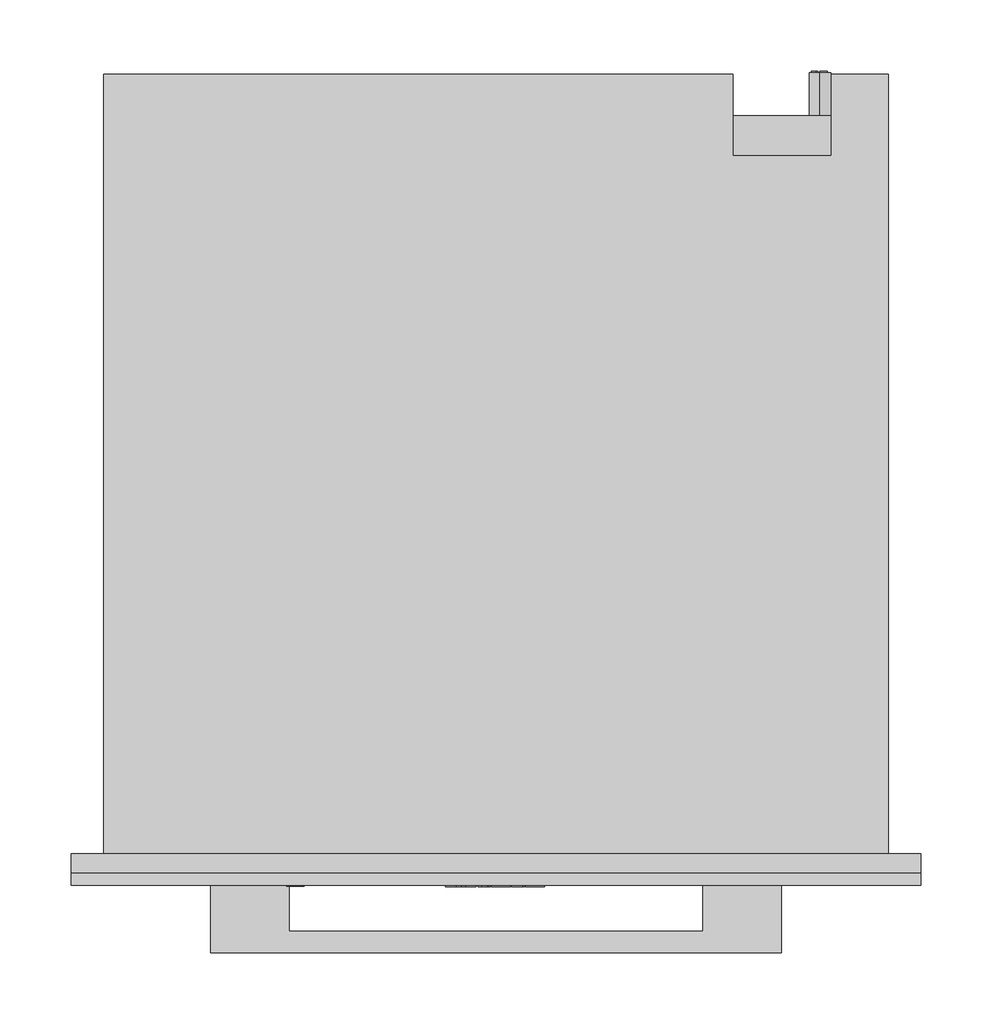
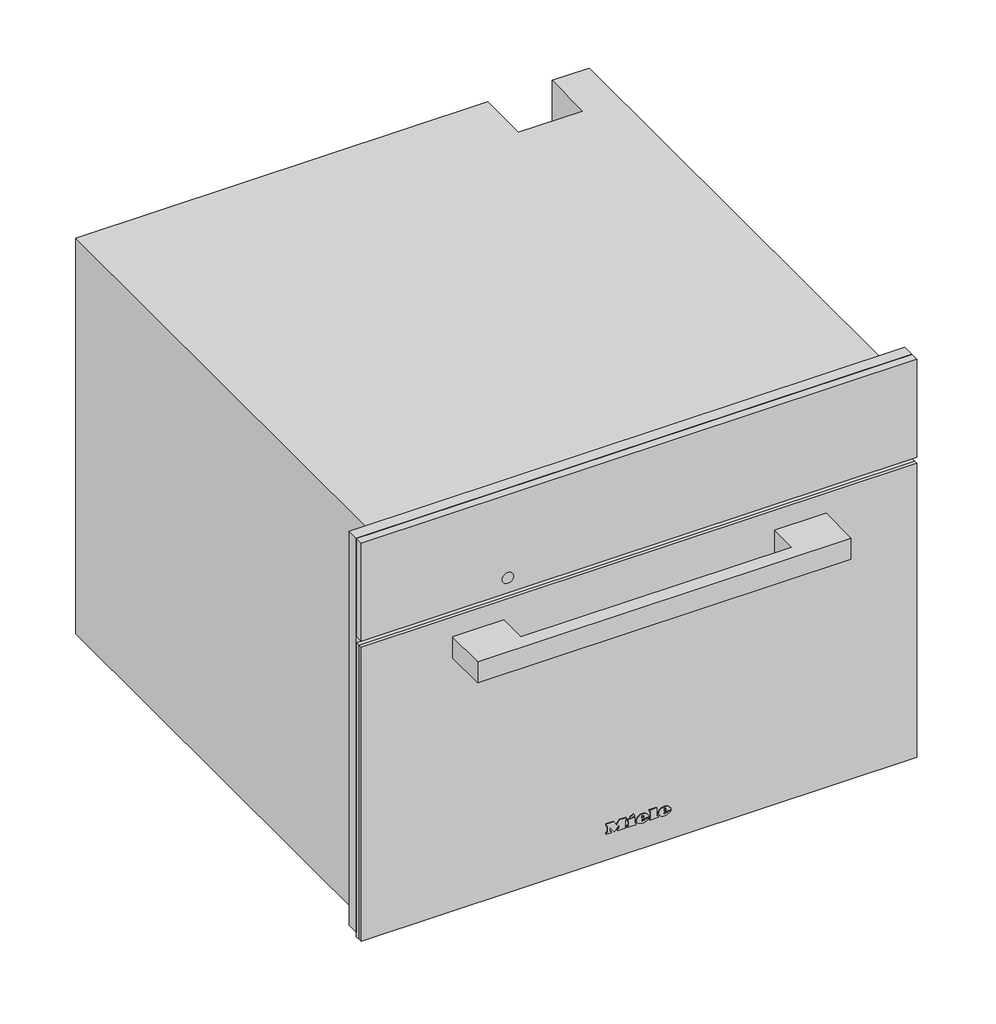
# Not in any storey: 1 proxy.
"""IFC4 building model written with IfcOpenShell, lengths in millimetres."""

import ifcopenshell
import ifcopenshell.guid

model = None  # the IFC model being written
_history = None  # IfcOwnerHistory: only IFC2X3 demands one
_inside = {}  # id of a spatial element -> (the spatial element, [elements in it])
_under = {}  # id of a project, library or spatial element -> (it, [spatial elements below it])
_declared = {}  # id of a project -> (the project, [libraries it declares])
_typed = {}  # id of a type object -> (the type object, [elements of that type])
_made_of = {}  # id of a material, layer set ... -> (it, [elements and type objects made of it])


def new_model(schema):
    """Start an empty IFC model of exactly this schema.

    Asked for "IFC4X3", IfcOpenShell would pick the latest addendum, in which some entities
    have other attributes; the version numbers below select the first issue.
    IFC2X3 requires an IfcOwnerHistory on every rooted entity: one is made here for all.
    """
    global model, _history
    if schema == "IFC4X3":
        model = ifcopenshell.file(schema_version=(4, 3, 0, 0))
    else:
        model = ifcopenshell.file(schema=schema)
    _inside.clear()
    _under.clear()
    _declared.clear()
    _typed.clear()
    _made_of.clear()
    _history = None
    if model.schema == "IFC2X3":
        org = make("IfcOrganization", Name="unknown")
        user = make(
            "IfcPersonAndOrganization",
            ThePerson=make("IfcPerson", FamilyName="unknown"),
            TheOrganization=org,
        )
        app = make(
            "IfcApplication",
            ApplicationDeveloper=org,
            Version="unknown",
            ApplicationFullName="unknown",
            ApplicationIdentifier="unknown",
        )
        _history = make(
            "IfcOwnerHistory",
            OwningUser=user,
            OwningApplication=app,
            ChangeAction="ADDED",
            CreationDate=0,
        )
    return model


def make(cls, **values):
    """One entity of the class cls with the attributes given. An attribute that is None is left unset."""
    return model.create_entity(
        cls, **{name: value for name, value in values.items() if value is not None}
    )


def rooted(cls, **values):
    """An entity with a GlobalId (a new one), such as an element, a storey or a relation."""
    return make(cls, GlobalId=ifcopenshell.guid.new(), OwnerHistory=_history, **values)


def si_unit(unit_type, name, prefix=None):
    """IfcSIUnit, for example si_unit("LENGTHUNIT", "METRE", prefix="MILLI")."""
    return make("IfcSIUnit", UnitType=unit_type, Prefix=prefix, Name=name)


def assignment(units):
    """IfcUnitAssignment: the units of a project."""
    return None if units is None else make("IfcUnitAssignment", Units=units)


def point(xyz):
    """IfcCartesianPoint."""
    return None if xyz is None else make("IfcCartesianPoint", Coordinates=xyz)


def direction(xyz):
    """IfcDirection."""
    return None if xyz is None else make("IfcDirection", DirectionRatios=xyz)


def frame(location, z_axis=None, x_axis=None):
    """IfcAxis2Placement3D, a coordinate frame: its origin and axes. An axis left out is left unset."""
    return make(
        "IfcAxis2Placement3D",
        Location=point(location),
        Axis=direction(z_axis),
        RefDirection=direction(x_axis),
    )


def frame_2d(location, x_axis=None):
    """IfcAxis2Placement2D, a coordinate frame in the plane: its origin and x axis."""
    return make(
        "IfcAxis2Placement2D", Location=point(location), RefDirection=direction(x_axis)
    )


def origin():
    """The frame at (0, 0, 0) with its axes left unset."""
    return frame((0.0, 0.0, 0.0))


def place(relative_to, where):
    """IfcLocalPlacement: puts the frame where relative to a parent placement (None: the world)."""
    return make(
        "IfcLocalPlacement", PlacementRelTo=relative_to, RelativePlacement=where
    )


def context(
    kind, dimensions, precision=None, world=None, true_north=None, identifier=None
):
    """IfcGeometricRepresentationContext, for example the 3D "Model" context."""
    return make(
        "IfcGeometricRepresentationContext",
        ContextIdentifier=identifier,
        ContextType=kind,
        CoordinateSpaceDimension=dimensions,
        Precision=precision,
        WorldCoordinateSystem=world,
        TrueNorth=true_north,
    )


def project(units=None, contexts=None):
    """IfcProject with its units and contexts."""
    return rooted(
        "IfcProject",
        Name="project",
        RepresentationContexts=contexts,
        UnitsInContext=assignment(units),
    )


def spatial(cls, under=None, at=None, **own):
    """A site, building, storey or space (cls), placed at a placement, below another one or the project."""
    s = rooted(cls, ObjectPlacement=at, **own)
    if under is not None:
        _under.setdefault(under.id(), (under, []))[1].append(s)
    return s


def polyline(points):
    """IfcPolyline through the points."""
    return make("IfcPolyline", Points=[point(p) for p in points])


def circle_curve(where, radius):
    """IfcCircle in the frame where."""
    return make("IfcCircle", Position=where, Radius=radius)


def ellipse_curve(where, semi_axis1, semi_axis2):
    """IfcEllipse in the frame where."""
    return make(
        "IfcEllipse", Position=where, SemiAxis1=semi_axis1, SemiAxis2=semi_axis2
    )


def trimmed(basis, trim1, trim2, sense, master):
    """IfcTrimmedCurve: the piece of a basis curve between two trims."""
    return make(
        "IfcTrimmedCurve",
        BasisCurve=basis,
        Trim1=trim1,
        Trim2=trim2,
        SenseAgreement=sense,
        MasterRepresentation=master,
    )


def segment(curve, same_sense, transition):
    """IfcCompositeCurveSegment."""
    return make(
        "IfcCompositeCurveSegment",
        Transition=transition,
        SameSense=same_sense,
        ParentCurve=curve,
    )


def composite_curve(segments, self_intersect=None):
    """IfcCompositeCurve: segments joined end to end."""
    return make("IfcCompositeCurve", Segments=segments, SelfIntersect=self_intersect)


def outline(outer, holes=None, kind="AREA"):
    """IfcArbitraryClosedProfileDef: a profile drawn as a closed curve; with holes, ...WithVoids."""
    if holes is None:
        return make("IfcArbitraryClosedProfileDef", ProfileType=kind, OuterCurve=outer)
    return make(
        "IfcArbitraryProfileDefWithVoids",
        ProfileType=kind,
        OuterCurve=outer,
        InnerCurves=holes,
    )


def extrude(swept, where, along, depth):
    """IfcExtrudedAreaSolid: the profile swept, set in the frame where, extruded along a direction by depth."""
    return make(
        "IfcExtrudedAreaSolid",
        SweptArea=swept,
        Position=where,
        ExtrudedDirection=direction(along),
        Depth=depth,
    )


def faces_of(points, faces, orient=None, outer=None):
    """IfcFace entities. A face is a list of loops; a loop is a list of indices into points, from 0.

    orient and outer hold one flag for each loop. By default every Orientation is true, the
    first loop of a face is its IfcFaceOuterBound and the others are IfcFaceBound.
    """
    made = []
    for i, loops in enumerate(faces):
        bounds = []
        for j, loop in enumerate(loops):
            is_outer = j == 0 if outer is None else outer[i][j]
            bounds.append(
                make(
                    "IfcFaceOuterBound" if is_outer else "IfcFaceBound",
                    Bound=make("IfcPolyLoop", Polygon=[points[k] for k in loop]),
                    Orientation=True if orient is None else orient[i][j],
                )
            )
        made.append(make("IfcFace", Bounds=bounds))
    return made


def faceted_brep(points, faces, orient=None, outer=None, voids=None):
    """IfcFacetedBrep: a solid bounded by flat faces; with voids (closed shells), ...WithVoids."""
    shared = [point(p) for p in points]
    hull = make("IfcClosedShell", CfsFaces=faces_of(shared, faces, orient, outer))
    if voids is None:
        return make("IfcFacetedBrep", Outer=hull)
    return make(
        "IfcFacetedBrepWithVoids",
        Outer=hull,
        Voids=[
            make(cls, CfsFaces=faces_of(shared, fs, o, b)) for cls, fs, o, b in voids
        ],
    )


def shape(context_of_items, identifier, shape_type, items):
    """IfcShapeRepresentation: the items that make up one representation, for example the "Body"."""
    return make(
        "IfcShapeRepresentation",
        ContextOfItems=context_of_items,
        RepresentationIdentifier=identifier,
        RepresentationType=shape_type,
        Items=items,
    )


def source(mapping_origin, context_of_items, identifier, shape_type, items):
    """IfcRepresentationMap: a shape defined once, which mapped items show again and again."""
    return make(
        "IfcRepresentationMap",
        MappingOrigin=mapping_origin,
        MappedRepresentation=shape(context_of_items, identifier, shape_type, items),
    )


def transform(
    local_origin,
    x_axis=None,
    y_axis=None,
    z_axis=None,
    scale=None,
    scale2=None,
    scale3=None,
    uniform=True,
):
    """IfcCartesianTransformationOperator3D, or its non-uniform kind. x_axis, y_axis, z_axis: its Axis1, 2, 3."""
    if uniform:
        return make(
            "IfcCartesianTransformationOperator3D",
            Axis1=direction(x_axis),
            Axis2=direction(y_axis),
            LocalOrigin=point(local_origin),
            Scale=scale,
            Axis3=direction(z_axis),
        )
    return make(
        "IfcCartesianTransformationOperator3DnonUniform",
        Axis1=direction(x_axis),
        Axis2=direction(y_axis),
        LocalOrigin=point(local_origin),
        Scale=scale,
        Axis3=direction(z_axis),
        Scale2=scale2,
        Scale3=scale3,
    )


def mapped(mapping_source, mapping_target):
    """IfcMappedItem: shows the shape of a source again, moved by a transform."""
    return make(
        "IfcMappedItem", MappingSource=mapping_source, MappingTarget=mapping_target
    )


def made_of(thing, what):
    """Note that an element or type object is made of a material, layer set ...; save() writes the relation."""
    if what is not None:
        _made_of.setdefault(what.id(), (what, []))[1].append(thing)
    return thing


def element(
    cls,
    number,
    at=None,
    inside=None,
    cuts=None,
    type_object=None,
    material=None,
    context=None,
    identifier="Body",
    shape_type=None,
    held_by="IfcProductDefinitionShape",
    body=None,
    shapes=None,
    **own,
):
    """One element of the class cls, such as IfcWall. Its Tag is "e" and its number.

    at: its placement. inside: the storey or other place that contains it. cuts: it is an
    opening in that element (IfcRelVoidsElement). A single representation is given by context,
    identifier, shape_type and body (its items); several are given by shapes. held_by: the class
    of the entity that holds the representations. save() writes the other relations.
    """
    e = rooted(cls, Tag="e%d" % number, ObjectPlacement=at, **own)
    if body is not None:
        shapes = [shape(context, identifier, shape_type, body)]
    if shapes is not None:
        e.Representation = make(held_by, Representations=shapes)
    if inside is not None:
        _inside.setdefault(inside.id(), (inside, []))[1].append(e)
    if cuts is not None:
        rooted(
            "IfcRelVoidsElement", RelatingBuildingElement=cuts, RelatedOpeningElement=e
        )
    if type_object is not None:
        _typed.setdefault(type_object.id(), (type_object, []))[1].append(e)
    return made_of(e, material)


def aggregate(whole, parts):
    """IfcRelAggregates: a whole, such as a stair, and the parts it consists of."""
    return rooted("IfcRelAggregates", RelatingObject=whole, RelatedObjects=parts)


def save(model, path):
    """Write the relations noted so far, then the file.

    IfcRelAggregates (storeys below a building ...), IfcRelContainedInSpatialStructure (elements
    in a storey), IfcRelDefinesByType, IfcRelAssociatesMaterial and IfcRelDeclares: one each for
    every whole, place, type object, material and project.
    """
    for whole, parts in _under.values():
        aggregate(whole, parts)
    for where, things in _inside.values():
        rooted(
            "IfcRelContainedInSpatialStructure",
            RelatedElements=things,
            RelatingStructure=where,
        )
    for kind, things in _typed.values():
        rooted("IfcRelDefinesByType", RelatedObjects=things, RelatingType=kind)
    for what, things in _made_of.values():
        rooted("IfcRelAssociatesMaterial", RelatedObjects=things, RelatingMaterial=what)
    for by, libraries in _declared.values():
        rooted("IfcRelDeclares", RelatingContext=by, RelatedDefinitions=libraries)
    model.write(path)


def plane_surface(at):
    """IfcPlane: the flat surface through the origin of the frame at, square to its z axis."""
    return make("IfcPlane", Position=at)


def cylinder_surface(at, radius):
    """IfcCylindricalSurface: all points at the distance radius from the z axis of the frame at."""
    return make("IfcCylindricalSurface", Position=at, Radius=radius)


def revolved_surface(curve, axis_point, axis_direction):
    """IfcSurfaceOfRevolution: the curve turned about the line through axis_point along axis_direction."""
    return make(
        "IfcSurfaceOfRevolution",
        SweptCurve=make("IfcArbitraryOpenProfileDef", ProfileType="CURVE", Curve=curve),
        AxisPosition=make("IfcAxis1Placement", Location=point(axis_point), Axis=direction(axis_direction)),
    )


def extruded_surface(curve, direction_of_extrusion, depth):
    """IfcSurfaceOfLinearExtrusion: the curve pushed along a direction by depth."""
    return make(
        "IfcSurfaceOfLinearExtrusion",
        SweptCurve=make("IfcArbitraryOpenProfileDef", ProfileType="CURVE", Curve=curve),
        ExtrudedDirection=direction(direction_of_extrusion),
        Depth=depth,
    )


def advanced_brep(points, edges, surfaces, faces):
    """IfcAdvancedBrep: a solid bounded by faces that lie on surfaces and meet in shared edges.

    An edge is (start, end): straight between two places in points (the first is 0);
    or (start, end, curve); or (start, end, curve, False) where it runs against its curve.
    A face is (place in surfaces, loops), or (place, loops, False) where it looks against
    its surface's normal. A loop lists edges by number (the first is 1), with a minus sign
    where the edge is run from its end to its start. The first loop is the outer one.
    """
    corners = [point(p) for p in points]
    vertices = [make("IfcVertexPoint", VertexGeometry=c) for c in corners]
    made = []
    for start, end, *more in edges:
        made.append(
            make(
                "IfcEdgeCurve",
                EdgeStart=vertices[start],
                EdgeEnd=vertices[end],
                EdgeGeometry=more[0] if more else make("IfcPolyline", Points=[corners[start], corners[end]]),
                SameSense=more[1] if len(more) > 1 else True,
            )
        )
    hull = []
    for where, loops, *sense in faces:
        bounds = []
        for j, loop in enumerate(loops):
            ring = [make("IfcOrientedEdge", EdgeElement=made[abs(k) - 1], Orientation=k > 0) for k in loop]
            bounds.append(
                make(
                    "IfcFaceOuterBound" if j == 0 else "IfcFaceBound",
                    Bound=make("IfcEdgeLoop", EdgeList=ring),
                    Orientation=True,
                )
            )
        hull.append(make("IfcAdvancedFace", Bounds=bounds, FaceSurface=surfaces[where], SameSense=sense[0] if sense else True))
    return make("IfcAdvancedBrep", Outer=make("IfcClosedShell", CfsFaces=hull))


def specialty_equipment_197ef401(model_context):
    return source(origin(), model_context, "Body", "SolidModel", [
        extrude(outline(polyline([(455.0, 297.5), (455.0, -297.5), (9.0, -297.5), (9.0, 297.5), (455.0, 297.5)]), holes=[polyline([(344.0, -272.5), (344.0, 272.5), (27.0, 272.5), (27.0, -272.5), (344.0, -272.5)])]), frame((0.0, -13.0, 0.0), z_axis=(0.0, 1.0, 0.0), x_axis=(0.0, 0.0, 1.0)), (0.0, 0.0, 1.0), 13.0),
        advanced_brep(
        [(227.0, 547.0, 255.5), (227.0, 547.0, 240.5), (221.4098301, 547.0, 243.0), (225.5, 547.0, 243.0), (225.5, 547.0, 253.0), (224.4955303, 547.0, 253.0), (224.4955303, 547.0, 244.0), (221.0315043, 547.0, 244.0), (221.0315043, 547.0, 243.4582978), (232.0, 547.0, 243.0), (232.0, 547.0, 253.0), (227.0, 547.0, 253.0), (227.0, 547.0, 252.0), (231.0, 547.0, 252.0), (231.0, 547.0, 248.5), (228.0, 547.0, 248.5), (228.0, 547.0, 247.5), (231.0, 547.0, 247.5), (231.0, 547.0, 244.0), (227.0, 547.0, 244.0), (227.0, 547.0, 243.0), (227.0, 517.0, 240.5), (227.0, 517.0, 255.5), (232.0, 548.0, 253.0), (232.0, 548.0, 243.0), (227.0, 548.0, 243.0), (227.0, 548.0, 244.0), (231.0, 548.0, 244.0), (231.0, 548.0, 247.5), (228.0, 548.0, 247.5), (228.0, 548.0, 248.5), (231.0, 548.0, 248.5), (231.0, 548.0, 252.0), (227.0, 548.0, 252.0), (227.0, 548.0, 253.0), (225.5, 548.0, 243.0), (221.0315043, 548.0, 243.0), (221.0315043, 548.0, 244.0), (224.4955303, 548.0, 244.0), (224.4955303, 548.0, 253.0), (225.5, 548.0, 253.0), (221.0315043, 547.0, 243.0)],
        [
            (0, 1, circle_curve(frame((227.0, 547.0, 248.0), z_axis=(0.0, 1.0, 0.0), x_axis=(0.0, 0.0, 1.0)), 7.5)),
            (1, 2, circle_curve(frame((227.0, 547.0, 248.0), z_axis=(0.0, 1.0, 0.0), x_axis=(0.0, 0.0, 1.0)), 7.5)),
            (2, 3),
            (3, 4),
            (4, 5),
            (5, 6),
            (6, 7),
            (7, 8),
            (8, 0, circle_curve(frame((227.0, 547.0, 248.0), z_axis=(0.0, 1.0, 0.0), x_axis=(0.0, 0.0, 1.0)), 7.5)),
            (9, 10),
            (10, 11),
            (11, 12),
            (12, 13),
            (13, 14),
            (14, 15),
            (15, 16),
            (16, 17),
            (17, 18),
            (18, 19),
            (19, 20),
            (20, 9),
            (21, 22, circle_curve(frame((227.0, 517.0, 248.0), z_axis=(0.0, -1.0, 0.0), x_axis=(0.0, 0.0, 1.0)), 7.5)),
            (22, 21, circle_curve(frame((227.0, 517.0, 248.0), z_axis=(0.0, -1.0, 0.0), x_axis=(0.0, 0.0, 1.0)), 7.5)),
            (0, 22),
            (21, 1),
            (8, 2, circle_curve(frame((227.0, 547.0, 248.0), z_axis=(0.0, -1.0, 0.0), x_axis=(0.0, 0.0, 1.0)), 7.5)),
            (23, 24),
            (24, 25),
            (25, 26),
            (26, 27),
            (27, 28),
            (28, 29),
            (29, 30),
            (30, 31),
            (31, 32),
            (32, 33),
            (33, 34),
            (34, 23),
            (35, 36),
            (36, 37),
            (37, 38),
            (38, 39),
            (39, 40),
            (40, 35),
            (8, 41),
            (41, 2),
            (23, 10),
            (9, 24),
            (20, 25),
            (19, 26),
            (18, 27),
            (17, 28),
            (16, 29),
            (15, 30),
            (14, 31),
            (13, 32),
            (12, 33),
            (11, 34),
            (35, 3),
            (41, 36),
            (7, 37),
            (6, 38),
            (5, 39),
            (4, 40),
        ],
        [
            plane_surface(frame((227.0, 547.0, 255.5), z_axis=(0.0, 1.0, 0.0), x_axis=(1.0, 0.0, 0.0))),
            plane_surface(frame((227.0, 517.0, 255.5), z_axis=(0.0, -1.0, 0.0), x_axis=(-1.0, 0.0, 0.0))),
            cylinder_surface(frame((227.0, 547.0, 248.0), z_axis=(0.0, -1.0, 0.0), x_axis=(0.0, 0.0, 1.0)), 7.5),
            plane_surface(frame((232.0, 548.0, 253.0), z_axis=(0.0, 1.0, 0.0), x_axis=(0.0, 0.0, -1.0))),
            plane_surface(frame((232.0, 547.0, 253.0), z_axis=(0.0, -1.0, 0.0), x_axis=(0.0, 0.0, 1.0))),
            plane_surface(frame((232.0, 548.0, 253.0), z_axis=(1.0, 0.0, 0.0), x_axis=(0.0, -1.0, 0.0))),
            plane_surface(frame((232.0, 548.0, 243.0), z_axis=(0.0, 0.0, -1.0), x_axis=(0.0, -1.0, 0.0))),
            plane_surface(frame((227.0, 548.0, 243.0), z_axis=(-1.0, 0.0, 0.0), x_axis=(0.0, -1.0, 0.0))),
            plane_surface(frame((227.0, 548.0, 244.0), z_axis=(0.0, 0.0, 1.0), x_axis=(0.0, -1.0, 0.0))),
            plane_surface(frame((231.0, 548.0, 244.0), z_axis=(-1.0, 0.0, 0.0), x_axis=(0.0, -1.0, 0.0))),
            plane_surface(frame((231.0, 548.0, 247.5), z_axis=(0.0, 0.0, -1.0), x_axis=(0.0, -1.0, 0.0))),
            plane_surface(frame((228.0, 548.0, 247.5), z_axis=(-1.0, 0.0, 0.0), x_axis=(0.0, -1.0, 0.0))),
            plane_surface(frame((228.0, 548.0, 248.5), z_axis=(0.0, 0.0, 1.0), x_axis=(0.0, -1.0, 0.0))),
            plane_surface(frame((231.0, 548.0, 248.5), z_axis=(-1.0, 0.0, 0.0), x_axis=(0.0, -1.0, 0.0))),
            plane_surface(frame((231.0, 548.0, 252.0), z_axis=(0.0, 0.0, -1.0), x_axis=(0.0, -1.0, 0.0))),
            plane_surface(frame((227.0, 548.0, 252.0), z_axis=(-1.0, 0.0, 0.0), x_axis=(0.0, -1.0, 0.0))),
            plane_surface(frame((227.0, 548.0, 253.0), z_axis=(0.0, 0.0, 1.0), x_axis=(0.0, -1.0, 0.0))),
            plane_surface(frame((225.5, 548.0, 243.0), z_axis=(0.0, 0.0, -1.0), x_axis=(0.0, -1.0, 0.0))),
            plane_surface(frame((221.0315043, 548.0, 243.0), z_axis=(-1.0, 0.0, 0.0), x_axis=(0.0, -1.0, 0.0))),
            plane_surface(frame((221.0315043, 548.0, 244.0), z_axis=(0.0, 0.0, 1.0), x_axis=(0.0, -1.0, 0.0))),
            plane_surface(frame((224.4955303, 548.0, 244.0), z_axis=(-1.0, 0.0, 0.0), x_axis=(0.0, -1.0, 0.0))),
            plane_surface(frame((224.4955303, 548.0, 253.0), z_axis=(0.0, 0.0, 1.0), x_axis=(0.0, -1.0, 0.0))),
            plane_surface(frame((225.5, 548.0, 253.0), z_axis=(1.0, 0.0, 0.0), x_axis=(0.0, -1.0, 0.0))),
        ],
        [
            (0, [[1, 2, 3, 4, 5, 6, 7, 8, 9], [10, 11, 12, 13, 14, 15, 16, 17, 18, 19, 20, 21]]),
            (1, [[22, 23]]),
            (2, [[-1, 24, -22, 25]]),
            (2, [[-23, -24, -9, 26, -2, -25]]),
            (3, [[27, 28, 29, 30, 31, 32, 33, 34, 35, 36, 37, 38]]),
            (3, [[39, 40, 41, 42, 43, 44]]),
            (4, [[45, 46, -26]]),
            (5, [[-27, 47, -10, 48]]),
            (6, [[-28, -48, -21, 49]]),
            (7, [[-29, -49, -20, 50]]),
            (8, [[-30, -50, -19, 51]]),
            (9, [[-31, -51, -18, 52]]),
            (10, [[-32, -52, -17, 53]]),
            (11, [[-33, -53, -16, 54]]),
            (12, [[-34, -54, -15, 55]]),
            (13, [[-35, -55, -14, 56]]),
            (14, [[-36, -56, -13, 57]]),
            (15, [[-37, -57, -12, 58]]),
            (16, [[-38, -58, -11, -47]]),
            (17, [[-39, 59, -3, -46, 60]]),
            (18, [[-40, -60, -45, -8, 61]]),
            (19, [[-41, -61, -7, 62]]),
            (20, [[-42, -62, -6, 63]]),
            (21, [[-43, -63, -5, 64]]),
            (22, [[-44, -64, -4, -59]]),
        ],
    ),
        faceted_brep([(-275.0, 546.0, 0.0), (-275.0, 546.0, 448.0), (166.0, 546.0, 448.0), (166.0, 546.0, 0.0), (235.0, 546.0, 448.0), (275.0, 546.0, 448.0), (275.0, 546.0, 338.0), (235.0, 546.0, 338.0), (275.0, 0.0, 448.0), (-275.0, 0.0, 448.0), (-275.0, 0.0, 0.0), (275.0, 0.0, 0.0), (-272.5, 0.0, 344.0), (272.5, 0.0, 344.0), (272.5, 0.0, 27.0), (-272.5, 0.0, 27.0), (235.0, 489.0, 448.0), (166.0, 489.0, 448.0), (166.0, 517.0, 0.0), (275.0, 517.0, 0.0), (275.0, 517.0, 338.0), (272.5, 17.0, 344.0), (-272.5, 17.0, 344.0), (-272.5, 17.0, 27.0), (272.5, 17.0, 27.0), (231.0, 17.0, 307.0), (231.0, 17.0, 65.0), (-231.0, 17.0, 65.0), (-231.0, 17.0, 307.0), (231.0, 411.0, 307.0), (-231.0, 411.0, 307.0), (-231.0, 411.0, 65.0), (231.0, 411.0, 65.0), (235.0, 489.0, 337.0), (166.0, 489.0, 337.0), (166.0, 517.0, 337.0), (235.0, 517.0, 337.0), (235.0, 517.0, 338.0)], [[[0, 1, 2, 3]], [[4, 5, 6, 7]], [[8, 9, 10, 11], [12, 13, 14, 15]], [[9, 8, 5, 4, 16, 17, 2, 1]], [[1, 0, 10, 9]], [[11, 10, 0, 3, 18, 19]], [[8, 11, 19, 20, 6, 5]], [[21, 22, 23, 24], [25, 26, 27, 28]], [[22, 21, 13, 12]], [[23, 22, 12, 15]], [[24, 23, 15, 14]], [[21, 24, 14, 13]], [[29, 30, 31, 32]], [[29, 32, 26, 25]], [[32, 31, 27, 26]], [[31, 30, 28, 27]], [[30, 29, 25, 28]], [[16, 33, 34, 17]], [[17, 34, 35, 18, 3, 2]], [[34, 33, 36, 35]], [[33, 16, 4, 7, 37, 36]], [[37, 20, 19, 18, 35, 36]], [[20, 37, 7, 6]]]),
        advanced_brep(
        [(26.2998, -23.0, 36.7018), (26.2998, -23.0, 37.8532), (33.9264, -23.0, 37.8532), (20.6568, -23.0, 37.8532), (23.7918, -23.0, 34.0), (33.7326, -23.0, 36.7018), (30.2898, -23.0, 36.7018), (27.5766, -23.0, 35.425), (26.2998, -23.0, 39.3124), (26.2998, -23.0, 40.555), (28.2492, -23.0, 40.555), (28.2492, -23.0, 39.3124), (26.2998, -22.0, 36.7018), (27.5766, -22.0, 35.425), (30.2898, -22.0, 36.7018), (33.7326, -22.0, 36.7018), (23.7918, -22.0, 34.0), (20.6568, -22.0, 37.8532), (33.9264, -22.0, 37.8532), (26.2998, -22.0, 37.8532), (26.2998, -22.0, 39.3124), (28.2492, -22.0, 39.3124), (28.2492, -22.0, 40.555), (26.2998, -22.0, 40.555)],
        [
            (0, 1),
            (1, 2),
            (2, 3, ellipse_curve(frame((27.2916, -23.0, 37.8532), z_axis=(0.0, -1.0, 0.0), x_axis=(-1.0, 0.0, 0.0)), 6.6348, 5.4834)),
            (3, 4, circle_curve(frame((25.0686622, -23.0, 38.2408), z_axis=(0.0, -1.0, 0.0), x_axis=(0.0, 0.0, -1.0)), 4.4288556)),
            (4, 5, circle_curve(frame((27.1587808, -23.0, 41.2504), z_axis=(0.0, -1.0, 0.0), x_axis=(0.0, 0.0, -1.0)), 7.9940516)),
            (5, 6),
            (6, 7, circle_curve(frame((28.1338588, -23.0, 37.762), z_axis=(0.0, 1.0, 0.0), x_axis=(0.0, 0.0, -1.0)), 2.4025208)),
            (7, 0, circle_curve(frame((27.5766, -23.0, 36.7018), z_axis=(0.0, 1.0, 0.0), x_axis=(0.0, 0.0, -1.0)), 1.2768)),
            (8, 9),
            (9, 10, circle_curve(frame((27.2745, -23.0, 40.555), z_axis=(0.0, 1.0, 0.0), x_axis=(0.0, 0.0, -1.0)), 0.9747)),
            (10, 11),
            (11, 8),
            (12, 13, circle_curve(frame((27.5766, -22.0, 36.7018), z_axis=(0.0, -1.0, 0.0), x_axis=(0.0, 0.0, -1.0)), 1.2768)),
            (13, 14, circle_curve(frame((28.1338588, -22.0, 37.762), z_axis=(0.0, -1.0, 0.0), x_axis=(0.0, 0.0, -1.0)), 2.4025208)),
            (14, 15),
            (15, 16, circle_curve(frame((27.1587808, -22.0, 41.2504), z_axis=(0.0, 1.0, 0.0), x_axis=(0.0, 0.0, -1.0)), 7.9940516)),
            (16, 17, circle_curve(frame((25.0686622, -22.0, 38.2408), z_axis=(0.0, 1.0, 0.0), x_axis=(0.0, 0.0, -1.0)), 4.4288556)),
            (17, 18, ellipse_curve(frame((27.2916, -22.0, 37.8532), z_axis=(0.0, 1.0, 0.0), x_axis=(-1.0, 0.0, 0.0)), 6.6348, 5.4834)),
            (18, 19),
            (19, 12),
            (20, 21),
            (21, 22),
            (22, 23, circle_curve(frame((27.2745, -22.0, 40.555), z_axis=(0.0, -1.0, 0.0), x_axis=(0.0, 0.0, -1.0)), 0.9747)),
            (23, 20),
            (0, 12),
            (19, 1),
            (18, 2),
            (5, 15),
            (14, 6),
            (17, 3),
            (13, 7),
            (16, 4),
            (8, 20),
            (23, 9),
            (22, 10),
            (21, 11),
        ],
        [
            plane_surface(frame((26.2998, -23.0, 37.8532), z_axis=(0.0, -1.0, 0.0), x_axis=(0.0, 0.0, 1.0))),
            plane_surface(frame((26.2998, -22.0, 37.8532), z_axis=(0.0, 1.0, 0.0), x_axis=(0.0, 0.0, -1.0))),
            plane_surface(frame((26.2998, -23.0, 36.7018), z_axis=(1.0, 0.0, 0.0), x_axis=(0.0, 1.0, 0.0))),
            plane_surface(frame((26.2998, -23.0, 37.8532), z_axis=(0.0, 0.0, -1.0), x_axis=(0.0, 1.0, 0.0))),
            plane_surface(frame((33.7326, -23.0, 36.7018), z_axis=(0.0, 0.0, 1.0), x_axis=(0.0, 1.0, 0.0))),
            extruded_surface(trimmed(ellipse_curve(frame((27.2916, -21.0, 37.8532), z_axis=(0.0, -1.0, 0.0), x_axis=(-1.0, 0.0, 0.0)), 6.6348, 5.4834), [point((33.9264, -21.0, 37.8532))], [point((20.6568, -21.0, 37.8532))], True, "CARTESIAN"), (0.0, -1.0, 0.0), 1.0),
            revolved_surface(polyline([(28.1338588, -22.0, 35.3594792), (28.1338588, -23.0, 35.3594792)]), (28.1338588, -22.0, 37.762), (0.0, 1.0, 0.0)),
            revolved_surface(polyline([(27.5766, -22.0, 35.425), (27.5766, -23.0, 35.425)]), (27.5766, -22.0, 36.7018), (0.0, 1.0, 0.0)),
            cylinder_surface(frame((25.0686622, -22.0, 38.2408), z_axis=(0.0, -1.0, 0.0), x_axis=(0.0, 0.0, -1.0)), 4.4288556),
            cylinder_surface(frame((27.1587808, -22.0, 41.2504), z_axis=(0.0, -1.0, 0.0), x_axis=(0.0, 0.0, -1.0)), 7.9940516),
            plane_surface(frame((26.2998, -23.0, 39.3124), z_axis=(1.0, 0.0, 0.0), x_axis=(0.0, 1.0, 0.0))),
            revolved_surface(polyline([(27.2745, -22.0, 39.5803), (27.2745, -23.0, 39.5803)]), (27.2745, -22.0, 40.555), (0.0, 1.0, 0.0)),
            plane_surface(frame((28.2492, -23.0, 40.555), z_axis=(-1.0, 0.0, 0.0), x_axis=(0.0, 1.0, 0.0))),
            plane_surface(frame((28.2492, -23.0, 39.3124), z_axis=(0.0, 0.0, 1.0), x_axis=(0.0, 1.0, 0.0))),
        ],
        [
            (0, [[1, 2, 3, 4, 5, 6, 7, 8], [9, 10, 11, 12]]),
            (1, [[13, 14, 15, 16, 17, 18, 19, 20], [21, 22, 23, 24]]),
            (2, [[-1, 25, -20, 26]]),
            (3, [[-2, -26, -19, 27]]),
            (4, [[-6, 28, -15, 29]]),
            (5, [[-3, -27, -18, 30]]),
            (6, [[-7, -29, -14, 31]]),
            (7, [[-8, -31, -13, -25]]),
            (8, [[-4, -30, -17, 32]]),
            (9, [[-5, -32, -16, -28]]),
            (10, [[-9, 33, -24, 34]]),
            (11, [[-10, -34, -23, 35]]),
            (12, [[-11, -35, -22, 36]]),
            (13, [[-12, -36, -21, -33]]),
        ],
    ),
        advanced_brep(
        [(2.508, -23.0, 36.7018), (2.508, -23.0, 37.8532), (10.1346, -23.0, 37.8532), (-3.135, -23.0, 37.8532), (0.0, -23.0, 34.0), (9.9408, -23.0, 36.7018), (6.498, -23.0, 36.7018), (3.7848, -23.0, 35.425), (2.508, -23.0, 39.3124), (2.508, -23.0, 40.555), (4.4574, -23.0, 40.555), (4.4574, -23.0, 39.3124), (2.508, -22.0, 36.7018), (3.7848, -22.0, 35.425), (6.498, -22.0, 36.7018), (9.9408, -22.0, 36.7018), (0.0, -22.0, 34.0), (-3.135, -22.0, 37.8532), (10.1346, -22.0, 37.8532), (2.508, -22.0, 37.8532), (2.508, -22.0, 39.3124), (4.4574, -22.0, 39.3124), (4.4574, -22.0, 40.555), (2.508, -22.0, 40.555)],
        [
            (0, 1),
            (1, 2),
            (2, 3, ellipse_curve(frame((3.4998, -23.0, 37.8532), z_axis=(0.0, -1.0, 0.0), x_axis=(-1.0, 0.0, 0.0)), 6.6348, 5.4834)),
            (3, 4, circle_curve(frame((1.2768622, -23.0, 38.2408), z_axis=(0.0, -1.0, 0.0), x_axis=(0.0, 0.0, -1.0)), 4.4288556)),
            (4, 5, circle_curve(frame((3.3669808, -23.0, 41.2504), z_axis=(0.0, -1.0, 0.0), x_axis=(0.0, 0.0, -1.0)), 7.9940516)),
            (5, 6),
            (6, 7, circle_curve(frame((4.3420588, -23.0, 37.762), z_axis=(0.0, 1.0, 0.0), x_axis=(0.0, 0.0, -1.0)), 2.4025208)),
            (7, 0, circle_curve(frame((3.7848, -23.0, 36.7018), z_axis=(0.0, 1.0, 0.0), x_axis=(0.0, 0.0, -1.0)), 1.2768)),
            (8, 9),
            (9, 10, circle_curve(frame((3.4827, -23.0, 40.555), z_axis=(0.0, 1.0, 0.0), x_axis=(0.0, 0.0, -1.0)), 0.9747)),
            (10, 11),
            (11, 8),
            (12, 13, circle_curve(frame((3.7848, -22.0, 36.7018), z_axis=(0.0, -1.0, 0.0), x_axis=(0.0, 0.0, -1.0)), 1.2768)),
            (13, 14, circle_curve(frame((4.3420588, -22.0, 37.762), z_axis=(0.0, -1.0, 0.0), x_axis=(0.0, 0.0, -1.0)), 2.4025208)),
            (14, 15),
            (15, 16, circle_curve(frame((3.3669808, -22.0, 41.2504), z_axis=(0.0, 1.0, 0.0), x_axis=(0.0, 0.0, -1.0)), 7.9940516)),
            (16, 17, circle_curve(frame((1.2768622, -22.0, 38.2408), z_axis=(0.0, 1.0, 0.0), x_axis=(0.0, 0.0, -1.0)), 4.4288556)),
            (17, 18, ellipse_curve(frame((3.4998, -22.0, 37.8532), z_axis=(0.0, 1.0, 0.0), x_axis=(-1.0, 0.0, 0.0)), 6.6348, 5.4834)),
            (18, 19),
            (19, 12),
            (20, 21),
            (21, 22),
            (22, 23, circle_curve(frame((3.4827, -22.0, 40.555), z_axis=(0.0, -1.0, 0.0), x_axis=(0.0, 0.0, -1.0)), 0.9747)),
            (23, 20),
            (0, 12),
            (19, 1),
            (18, 2),
            (5, 15),
            (14, 6),
            (17, 3),
            (13, 7),
            (16, 4),
            (8, 20),
            (23, 9),
            (22, 10),
            (21, 11),
        ],
        [
            plane_surface(frame((2.508, -23.0, 37.8532), z_axis=(0.0, -1.0, 0.0), x_axis=(0.0, 0.0, 1.0))),
            plane_surface(frame((2.508, -22.0, 37.8532), z_axis=(0.0, 1.0, 0.0), x_axis=(0.0, 0.0, -1.0))),
            plane_surface(frame((2.508, -23.0, 36.7018), z_axis=(1.0, 0.0, 0.0), x_axis=(0.0, 1.0, 0.0))),
            plane_surface(frame((2.508, -23.0, 37.8532), z_axis=(0.0, 0.0, -1.0), x_axis=(0.0, 1.0, 0.0))),
            plane_surface(frame((9.9408, -23.0, 36.7018), z_axis=(0.0, 0.0, 1.0), x_axis=(0.0, 1.0, 0.0))),
            extruded_surface(trimmed(ellipse_curve(frame((3.4998, -21.0, 37.8532), z_axis=(0.0, -1.0, 0.0), x_axis=(-1.0, 0.0, 0.0)), 6.6348, 5.4834), [point((10.1346, -21.0, 37.8532))], [point((-3.135, -21.0, 37.8532))], True, "CARTESIAN"), (0.0, -1.0, 0.0), 1.0),
            revolved_surface(polyline([(4.3420588, -22.0, 35.3594792), (4.3420588, -23.0, 35.3594792)]), (4.3420588, -22.0, 37.762), (0.0, 1.0, 0.0)),
            revolved_surface(polyline([(3.7848, -22.0, 35.425), (3.7848, -23.0, 35.425)]), (3.7848, -22.0, 36.7018), (0.0, 1.0, 0.0)),
            cylinder_surface(frame((1.2768622, -22.0, 38.2408), z_axis=(0.0, -1.0, 0.0), x_axis=(0.0, 0.0, -1.0)), 4.4288556),
            cylinder_surface(frame((3.3669808, -22.0, 41.2504), z_axis=(0.0, -1.0, 0.0), x_axis=(0.0, 0.0, -1.0)), 7.9940516),
            plane_surface(frame((2.508, -23.0, 39.3124), z_axis=(1.0, 0.0, 0.0), x_axis=(0.0, 1.0, 0.0))),
            revolved_surface(polyline([(3.4827, -22.0, 39.5803), (3.4827, -23.0, 39.5803)]), (3.4827, -22.0, 40.555), (0.0, 1.0, 0.0)),
            plane_surface(frame((4.4574, -23.0, 40.555), z_axis=(-1.0, 0.0, 0.0), x_axis=(0.0, 1.0, 0.0))),
            plane_surface(frame((4.4574, -23.0, 39.3124), z_axis=(0.0, 0.0, 1.0), x_axis=(0.0, 1.0, 0.0))),
        ],
        [
            (0, [[1, 2, 3, 4, 5, 6, 7, 8], [9, 10, 11, 12]]),
            (1, [[13, 14, 15, 16, 17, 18, 19, 20], [21, 22, 23, 24]]),
            (2, [[-1, 25, -20, 26]]),
            (3, [[-2, -26, -19, 27]]),
            (4, [[-6, 28, -15, 29]]),
            (5, [[-3, -27, -18, 30]]),
            (6, [[-7, -29, -14, 31]]),
            (7, [[-8, -31, -13, -25]]),
            (8, [[-4, -30, -17, 32]]),
            (9, [[-5, -32, -16, -28]]),
            (10, [[-9, 33, -24, 34]]),
            (11, [[-10, -34, -23, 35]]),
            (12, [[-11, -35, -22, 36]]),
            (13, [[-12, -36, -21, -33]]),
        ],
    ),
        extrude(outline(polyline([(44.7274, -9.9522), (42.8806, -9.0858), (44.6818, -5.2212), (46.5286, -6.0762), (44.7274, -9.9522)])), frame((0.0, -23.0, 0.0), z_axis=(0.0, 1.0, 0.0), x_axis=(0.0, 0.0, 1.0)), (0.0, 0.0, 1.0), 1.0),
        extrude(outline(polyline([(42.6298, -12.768), (40.5892, -12.768), (40.5892, -11.4114), (35.9152, -11.4114), (35.9152, -12.768), (34.0, -12.768), (34.0, -3.7734), (35.9152, -3.7734), (35.9152, -5.0958), (42.6298, -5.0958), (42.6298, -12.768)])), frame((0.0, -23.0, 0.0), z_axis=(0.0, 1.0, 0.0), x_axis=(0.0, 0.0, 1.0)), (0.0, 0.0, 1.0), 1.0),
        extrude(outline(polyline([(43.5418, 10.773), (43.5418, 12.141), (35.9152, 12.141), (35.9152, 10.773), (34.0, 10.773), (34.0, 20.0184), (35.9152, 20.0184), (35.9152, 18.6162), (45.4, 18.6162), (45.4, 10.773), (43.5418, 10.773)])), frame((0.0, -23.0, 0.0), z_axis=(0.0, 1.0, 0.0), x_axis=(0.0, 0.0, 1.0)), (0.0, 0.0, 1.0), 1.0),
        extrude(outline(polyline([(43.5418, -35.4882), (43.5418, -34.1088), (35.9152, -34.1088), (35.9152, -35.4882), (34.0, -35.4882), (34.0, -30.4722), (35.9152, -30.4722), (35.9152, -31.8402), (40.7429247, -31.8402), (34.0, -26.7444), (40.9402223, -21.6258), (35.9152, -21.6258), (35.9152, -23.028), (34.0, -23.028), (34.0, -13.9308), (35.9152, -13.9308), (35.9152, -15.3786), (43.5418, -15.3786), (43.5418, -13.9308), (45.4, -13.9308), (45.4, -20.8734), (41.125, -24.2022), (45.4, -27.5424), (45.4, -35.4882), (43.5418, -35.4882)])), frame((0.0, -23.0, 0.0), z_axis=(0.0, 1.0, 0.0), x_axis=(0.0, 0.0, 1.0)), (0.0, 0.0, 1.0), 1.0),
        extrude(outline(polyline([(297.5, -22.0), (-297.5, -22.0), (-297.5, -13.0), (297.5, -13.0), (297.5, -22.0)])), frame((0.0, 0.0, 344.0), z_axis=(0.0, 0.0, 1.0), x_axis=(1.0, 0.0, 0.0)), (0.0, 0.0, 1.0), 111.0),
        extrude(outline(composite_curve([segment(trimmed(circle_curve(frame_2d((361.0, -140.5745637)), 6.0), [point((361.0, -146.5745637))], [point((361.0, -134.5745637))], False, "CARTESIAN"), True, "CONTINUOUS"), segment(trimmed(circle_curve(frame_2d((361.0, -140.5745637)), 6.0), [point((361.0, -134.5745637))], [point((361.0, -146.5745637))], False, "CARTESIAN"), True, "CONTINUOUS")], self_intersect=False)), frame((0.0, -22.5, 0.0), z_axis=(0.0, 1.0, 0.0), x_axis=(0.0, 0.0, 1.0)), (0.0, 0.0, 1.0), 1.0),
        extrude(outline(polyline([(-297.5, -18.0), (297.5, -18.0), (297.5, -22.0), (-297.5, -22.0), (-297.5, -18.0)])), frame((0.0, 0.0, 4.0), z_axis=(0.0, 0.0, 1.0), x_axis=(1.0, 0.0, 0.0)), (0.0, 0.0, 1.0), 333.0),
        extrude(outline(polyline([(297.5, -18.0), (-297.5, -18.0), (-297.5, -13.0), (297.5, -13.0), (297.5, -18.0)])), frame((0.0, 0.0, 4.0), z_axis=(0.0, 0.0, 1.0), x_axis=(1.0, 0.0, 0.0)), (0.0, 0.0, 1.0), 333.0),
        extrude(outline(polyline([(-200.0, -69.0), (-200.0, -22.0), (-145.0, -22.0), (-145.0, -54.0), (145.0, -54.0), (145.0, -22.0), (200.0, -22.0), (200.0, -69.0), (-200.0, -69.0)])), frame((0.0, 0.0, 291.0), z_axis=(0.0, 0.0, 1.0), x_axis=(1.0, 0.0, 0.0)), (0.0, 0.0, 1.0), 24.0),
    ])


model = new_model("IFC4")

# Units and contexts
model_context = context("Model", 3, world=origin())
ifc_project = project(units=[si_unit("LENGTHUNIT", "METRE", prefix="MILLI")], contexts=[model_context])

# Site, building
site = spatial("IfcSite", under=ifc_project)
building = spatial("IfcBuilding", under=site)

# Proxy
placement = place(None, origin())
specialty_equipment_shape = specialty_equipment_197ef401(model_context)
element("IfcBuildingElementProxy", 1, Name="12118670_TR_DGC7840HCPro_GRGR : 23784038_TR_12118670_DGC7840HCPro_GRGR", ObjectType="12118670_TR_DGC7840HCPro_GRGR : 23784038_TR_12118670_DGC7840HCPro_GRGR", at=placement, inside=building, context=model_context, shape_type="MappedRepresentation", body=[
    mapped(specialty_equipment_shape, transform((0.0, 0.0, 0.0), x_axis=(1.0, 0.0, 0.0), y_axis=(0.0, 1.0, 0.0), z_axis=(0.0, 0.0, 1.0))),
])

save(model, "model.ifc")
